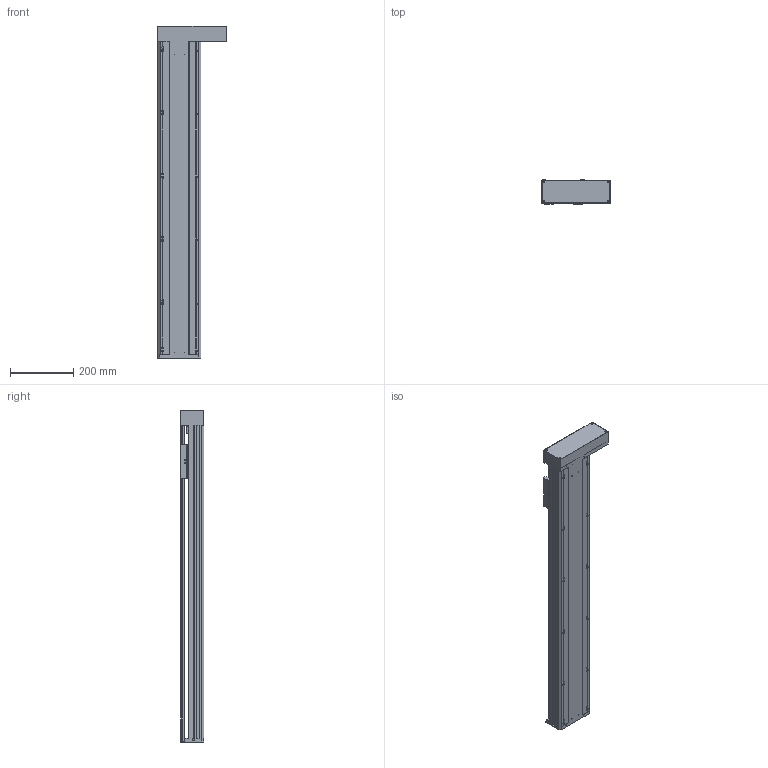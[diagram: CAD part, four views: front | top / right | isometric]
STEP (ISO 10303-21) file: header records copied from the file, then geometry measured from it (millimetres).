
FILE_DESCRIPTION(/* description */ (''),/* implementation_level */ '2;1');
FILE_NAME(/* name */ 'TKA136-FR-800_asm1.stp',/* time_stamp */ '2016-05-07T14:43:09+08:00',/* author */ (''),/* organization */ (''),/* preprocessor_version */ 'ST-DEVELOPER v15',/* originating_system */ 'SIEMENS PLM Software NX 8.5',/* authorisation */ '');
FILE_SCHEMA (('AUTOMOTIVE_DESIGN { 1 0 10303 214 3 1 1 1 }'));
Length unit declared in the file: millimetre
Products named in the file (3): 100-02; 100-01; TKA136-FR-800_asm1
Assembly tree (2 placements, depth 2):
  TKA136-FR-800_asm1
    100-01
    100-02
Bounding box: 216 x 75 x 1050 mm (x, y, z)
Volume: 3255265.5 mm3; surface area: 1269345.1 mm2
Topology: 2 solids, 12 shells, 897 faces, 2554 edges, 1671 vertices
Faces by surface type: cylinder 427, plane 417, cone 53
Full cylindrical faces by diameter (mm): 2.5 x4, 3 x2, 3.3 x15, 4 x4, 4.2 x14, 4.5 x26, 5 x16, 5.5 x26, 6.6 x16, 8 x20, 10 x9, 10.5 x12, 11 x4, 11.6 x1, 12 x9, 15 x3, 16 x5, 17 x1, 24 x5, 26 x1, 28 x1, 46 x2, 50 x1
Entity records: 30153 total; most frequent: CARTESIAN_POINT 8066, DIRECTION 4577, ORIENTED_EDGE 4294, EDGE_CURVE 2147, AXIS2_PLACEMENT_3D 1745, VERTEX_POINT 1539, EDGE_LOOP 1323, LINE 1087
